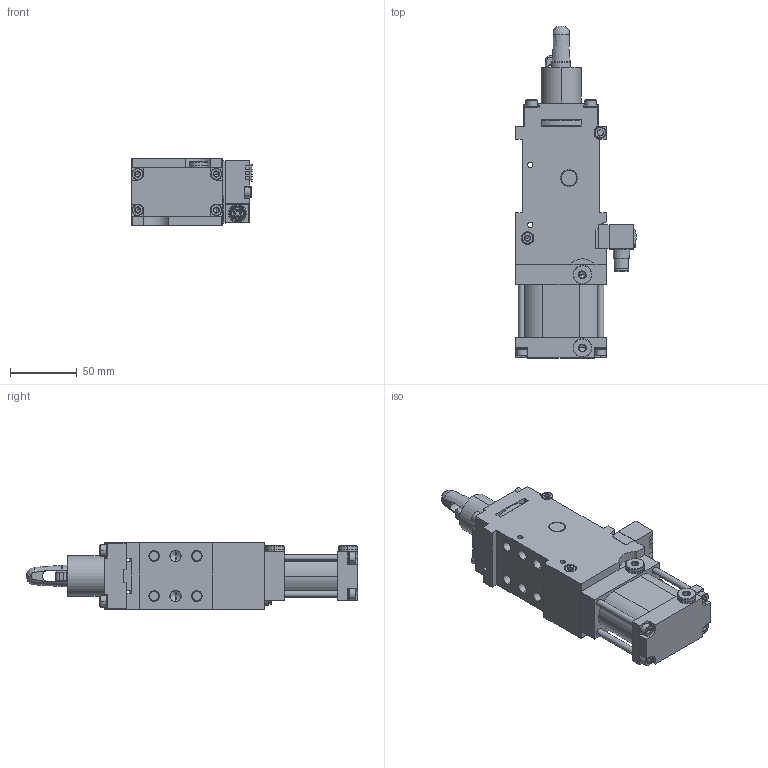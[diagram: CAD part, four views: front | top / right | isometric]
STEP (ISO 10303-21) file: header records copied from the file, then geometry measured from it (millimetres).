
FILE_DESCRIPTION (( 'STEP AP203' ), '1' );
FILE_NAME ('dca40gi-C200522nt3_02.STEP', '2020-06-04T09:34:06', ( '' ), ( '' ), 'SwSTEP 2.0', 'SolidWorks 2019', '' );
FILE_SCHEMA (( 'CONFIG_CONTROL_DESIGN' ));
Products named in the file (1): dca40gi-C200522nt3_02
Bounding box: 90.46 x 248.8 x 50.02 mm (x, y, z)
Volume: 483145.1 mm3; surface area: 119486.2 mm2
Topology: 27 solids, 38 shells, 2077 faces, 6153 edges, 3871 vertices
Faces by surface type: plane 1009, cylinder 506, cone 386, torus 158, bspline 18
Entity records: 73061 total; most frequent: CARTESIAN_POINT 17716, ORIENTED_EDGE 12186, DIRECTION 11312, EDGE_CURVE 6093, AXIS2_PLACEMENT_3D 4313, VERTEX_POINT 3871, VECTOR 2686, LINE 2686
